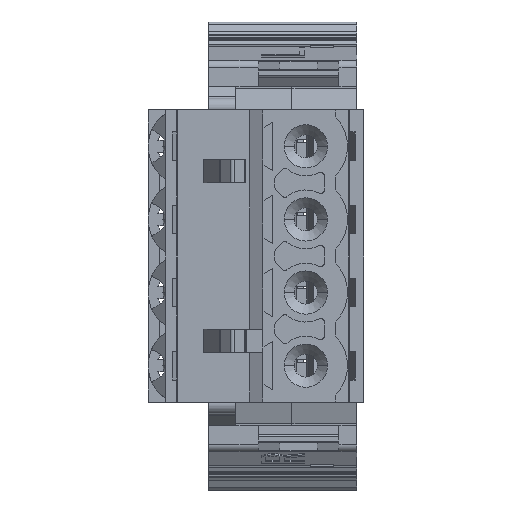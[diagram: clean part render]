
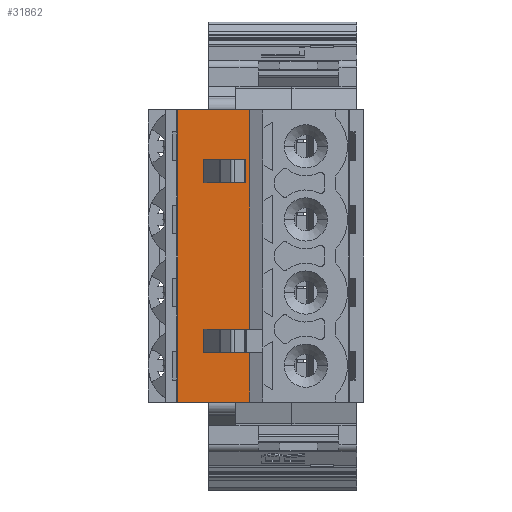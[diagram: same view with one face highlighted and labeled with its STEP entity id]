
A CAD part, front view. The second image highlights one B-rep face of the part: STEP entity #31862.
In plain terms, the highlighted planar face has unit normal (0, -1, 0).
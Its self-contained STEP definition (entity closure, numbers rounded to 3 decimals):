
#4657=DIRECTION('',(0.,0.,1.));
#4658=VECTOR('',#4657,20.32);
#4659=CARTESIAN_POINT('',(2.078,0.45,-36.927));
#4660=LINE('',#4659,#4658);
#4661=DIRECTION('',(-1.,0.,0.));
#4662=VECTOR('',#4661,4.975);
#4663=CARTESIAN_POINT('',(7.053,0.45,-16.607));
#4664=LINE('',#4663,#4662);
#4665=DIRECTION('',(0.,0.,-1.));
#4666=VECTOR('',#4665,15.25);
#4667=CARTESIAN_POINT('',(7.053,0.45,-16.607));
#4668=LINE('',#4667,#4666);
#4669=DIRECTION('',(-1.,0.,0.));
#4670=VECTOR('',#4669,0.709);
#4671=CARTESIAN_POINT('',(7.053,0.45,-33.457));
#4672=LINE('',#4671,#4670);
#4673=DIRECTION('',(0.,0.,1.));
#4674=VECTOR('',#4673,3.47);
#4675=CARTESIAN_POINT('',(7.053,0.45,-36.927));
#4676=LINE('',#4675,#4674);
#4677=DIRECTION('',(1.,0.,0.));
#4678=VECTOR('',#4677,4.975);
#4679=CARTESIAN_POINT('',(2.078,0.45,-36.927));
#4680=LINE('',#4679,#4678);
#4685=DIRECTION('',(0.,0.,1.));
#4686=VECTOR('',#4685,1.6);
#4687=CARTESIAN_POINT('',(6.067,0.45,-21.677));
#4688=LINE('',#4687,#4686);
#4713=DIRECTION('',(0.,0.,-1.));
#4714=VECTOR('',#4713,1.6);
#4715=CARTESIAN_POINT('',(3.888,0.45,-20.077));
#4716=LINE('',#4715,#4714);
#4726=DIRECTION('',(-1.,0.,0.));
#4727=VECTOR('',#4726,2.179);
#4728=CARTESIAN_POINT('',(6.067,0.45,-20.077));
#4729=LINE('',#4728,#4727);
#4761=DIRECTION('',(1.,0.,0.));
#4762=VECTOR('',#4761,2.179);
#4763=CARTESIAN_POINT('',(3.888,0.45,-21.677));
#4764=LINE('',#4763,#4762);
#4947=DIRECTION('',(-1.,0.,0.));
#4948=VECTOR('',#4947,2.456);
#4949=CARTESIAN_POINT('',(6.344,0.45,-31.857));
#4950=LINE('',#4949,#4948);
#5009=DIRECTION('',(1.,0.,0.));
#5010=VECTOR('',#5009,2.456);
#5011=CARTESIAN_POINT('',(3.888,0.45,-33.457));
#5012=LINE('',#5011,#5010);
#5049=DIRECTION('',(0.,0.,-1.));
#5050=VECTOR('',#5049,1.6);
#5051=CARTESIAN_POINT('',(3.888,0.45,-31.857));
#5052=LINE('',#5051,#5050);
#5082=DIRECTION('',(-1.,0.,0.));
#5083=VECTOR('',#5082,0.709);
#5084=CARTESIAN_POINT('',(7.053,0.45,-31.857));
#5085=LINE('',#5084,#5083);
#20084=CARTESIAN_POINT('',(2.078,0.45,-36.927));
#20085=VERTEX_POINT('',#20084);
#20086=CARTESIAN_POINT('',(7.053,0.45,-36.927));
#20087=VERTEX_POINT('',#20086);
#20150=CARTESIAN_POINT('',(7.053,0.45,-33.457));
#20152=VERTEX_POINT('',#20150);
#20154=CARTESIAN_POINT('',(6.344,0.45,-33.457));
#20155=VERTEX_POINT('',#20154);
#20160=CARTESIAN_POINT('',(7.053,0.45,-31.857));
#20161=CARTESIAN_POINT('',(6.344,0.45,-31.857));
#20162=VERTEX_POINT('',#20160);
#20163=VERTEX_POINT('',#20161);
#20164=CARTESIAN_POINT('',(3.888,0.45,-31.857));
#20165=VERTEX_POINT('',#20164);
#20166=CARTESIAN_POINT('',(3.888,0.45,-33.457));
#20167=VERTEX_POINT('',#20166);
#23398=CARTESIAN_POINT('',(7.053,0.45,-16.607));
#23399=VERTEX_POINT('',#23398);
#23400=CARTESIAN_POINT('',(2.078,0.45,-16.607));
#23401=VERTEX_POINT('',#23400);
#23482=CARTESIAN_POINT('',(6.067,0.45,-20.077));
#23483=CARTESIAN_POINT('',(3.888,0.45,-20.077));
#23484=VERTEX_POINT('',#23482);
#23485=VERTEX_POINT('',#23483);
#23486=CARTESIAN_POINT('',(3.888,0.45,-21.677));
#23487=VERTEX_POINT('',#23486);
#23488=CARTESIAN_POINT('',(6.067,0.45,-21.677));
#23489=VERTEX_POINT('',#23488);
#31827=CARTESIAN_POINT('',(7.988,0.45,-6.447));
#31828=DIRECTION('',(0.,-1.,0.));
#31829=DIRECTION('',(-1.,0.,0.));
#31830=AXIS2_PLACEMENT_3D('',#31827,#31828,#31829);
#31831=PLANE('',#31830);
#31832=ORIENTED_EDGE('',*,*,#31484,.T.);
#31833=ORIENTED_EDGE('',*,*,#31468,.F.);
#31835=ORIENTED_EDGE('',*,*,#31834,.T.);
#31837=ORIENTED_EDGE('',*,*,#31836,.T.);
#31839=ORIENTED_EDGE('',*,*,#31838,.T.);
#31841=ORIENTED_EDGE('',*,*,#31840,.T.);
#31843=ORIENTED_EDGE('',*,*,#31842,.T.);
#31845=ORIENTED_EDGE('',*,*,#31844,.F.);
#31847=ORIENTED_EDGE('',*,*,#31846,.F.);
#31849=ORIENTED_EDGE('',*,*,#31848,.F.);
#31850=EDGE_LOOP('',(#31832,#31833,#31835,#31837,#31839,#31841,#31843,#31845,
#31847,#31849));
#31851=FACE_OUTER_BOUND('',#31850,.F.);
#31853=ORIENTED_EDGE('',*,*,#31852,.T.);
#31855=ORIENTED_EDGE('',*,*,#31854,.T.);
#31857=ORIENTED_EDGE('',*,*,#31856,.T.);
#31859=ORIENTED_EDGE('',*,*,#31858,.T.);
#31860=EDGE_LOOP('',(#31853,#31855,#31857,#31859));
#31861=FACE_BOUND('',#31860,.F.);
#31862=ADVANCED_FACE('',(#31851,#31861),#31831,.T.);
#31468=EDGE_CURVE('',#23399,#23401,#4664,.T.);
#31484=EDGE_CURVE('',#20085,#23401,#4660,.T.);
#31834=EDGE_CURVE('',#23399,#20162,#4668,.T.);
#31836=EDGE_CURVE('',#20162,#20163,#5085,.T.);
#31838=EDGE_CURVE('',#20163,#20165,#4950,.T.);
#31840=EDGE_CURVE('',#20165,#20167,#5052,.T.);
#31842=EDGE_CURVE('',#20167,#20155,#5012,.T.);
#31844=EDGE_CURVE('',#20152,#20155,#4672,.T.);
#31846=EDGE_CURVE('',#20087,#20152,#4676,.T.);
#31848=EDGE_CURVE('',#20085,#20087,#4680,.T.);
#31852=EDGE_CURVE('',#23489,#23484,#4688,.T.);
#31854=EDGE_CURVE('',#23484,#23485,#4729,.T.);
#31856=EDGE_CURVE('',#23485,#23487,#4716,.T.);
#31858=EDGE_CURVE('',#23487,#23489,#4764,.T.);
